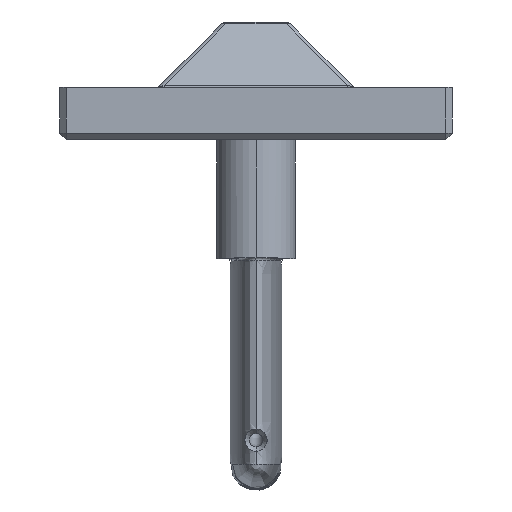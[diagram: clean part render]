
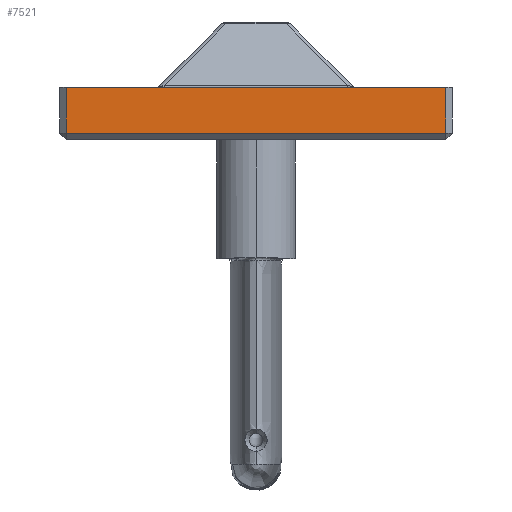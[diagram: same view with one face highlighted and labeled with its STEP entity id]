
A CAD part, front view. The second image highlights one B-rep face of the part: STEP entity #7521.
In plain terms, the highlighted planar face has unit normal (0, -1, 0).
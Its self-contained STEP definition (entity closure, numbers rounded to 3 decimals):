
#7494=AXIS2_PLACEMENT_3D('Plane Axis2P3D',#7491,#7492,#7493) ;
#718=CARTESIAN_POINT('Vertex',(-14.5,-13.5,63.)) ;
#721=CARTESIAN_POINT('Line Origine',(0.,-13.5,63.)) ;
#725=CARTESIAN_POINT('Vertex',(14.5,-13.5,63.)) ;
#7491=CARTESIAN_POINT('Axis2P3D Location',(15.,-13.5,59.)) ;
#7496=CARTESIAN_POINT('Line Origine',(0.,-13.5,59.5)) ;
#7500=CARTESIAN_POINT('Vertex',(-14.5,-13.5,59.5)) ;
#7502=CARTESIAN_POINT('Vertex',(14.5,-13.5,59.5)) ;
#7505=CARTESIAN_POINT('Line Origine',(14.5,-13.5,61.25)) ;
#7510=CARTESIAN_POINT('Line Origine',(-14.5,-13.5,61.25)) ;
#722=DIRECTION('Vector Direction',(-1.,0.,0.)) ;
#7492=DIRECTION('Axis2P3D Direction',(0.,1.,-0.)) ;
#7493=DIRECTION('Axis2P3D XDirection',(-1.,0.,0.)) ;
#7497=DIRECTION('Vector Direction',(-1.,0.,0.)) ;
#7506=DIRECTION('Vector Direction',(0.,0.,1.)) ;
#7511=DIRECTION('Vector Direction',(0.,0.,1.)) ;
#723=VECTOR('Line Direction',#722,1.) ;
#7498=VECTOR('Line Direction',#7497,1.) ;
#7507=VECTOR('Line Direction',#7506,1.) ;
#7512=VECTOR('Line Direction',#7511,1.) ;
#7516=ORIENTED_EDGE('',*,*,#7504,.T.) ;
#7517=ORIENTED_EDGE('',*,*,#7509,.T.) ;
#7518=ORIENTED_EDGE('',*,*,#727,.T.) ;
#7519=ORIENTED_EDGE('',*,*,#7514,.F.) ;
#7521=ADVANCED_FACE('PEIGNE',(#7520),#7495,.F.) ;
#727=EDGE_CURVE('',#726,#719,#724,.T.) ;
#7504=EDGE_CURVE('',#7501,#7503,#7499,.F.) ;
#7509=EDGE_CURVE('',#7503,#726,#7508,.T.) ;
#7514=EDGE_CURVE('',#7501,#719,#7513,.T.) ;
#7515=EDGE_LOOP('',(#7516,#7517,#7518,#7519)) ;
#7520=FACE_OUTER_BOUND('',#7515,.T.) ;
#724=LINE('Line',#721,#723) ;
#7499=LINE('Line',#7496,#7498) ;
#7508=LINE('Line',#7505,#7507) ;
#7513=LINE('Line',#7510,#7512) ;
#7495=PLANE('',#7494) ;
#719=VERTEX_POINT('',#718) ;
#726=VERTEX_POINT('',#725) ;
#7501=VERTEX_POINT('',#7500) ;
#7503=VERTEX_POINT('',#7502) ;
